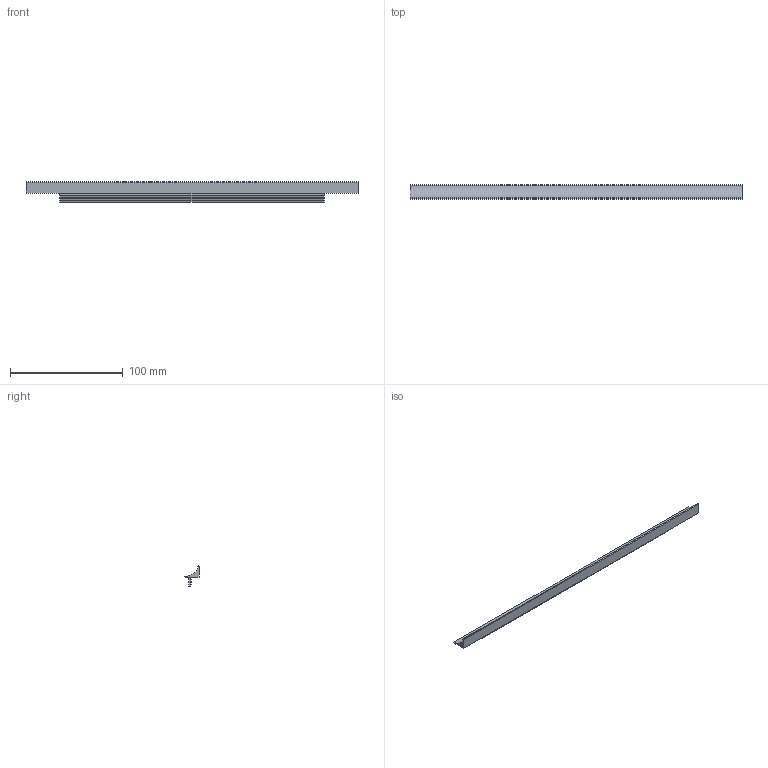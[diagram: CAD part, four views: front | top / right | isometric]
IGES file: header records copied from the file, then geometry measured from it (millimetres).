
Start section: Data from Parasolid IGES Translator 20.0.26, Copyright(c) 2006 Siemens P LM Software. All Rights Reserved.
Global section: file name: 9208089.igs; native system: By Siemens PLM Incorporated; preprocessor: XPlus GENERIC/IGES 20.0.26; author: Noname; organization: Noname; date: 20230313.142915; units: millimetre
Bounding box: 295 x 12.5 x 18 mm (x, y, z)
Surface area: 16537.3 mm2 (no closed solid volume)
Topology: 0 solids, 0 shells, 29 faces, 156 edges, 156 vertices
Faces by surface type: extrusion 25, revolution 4
